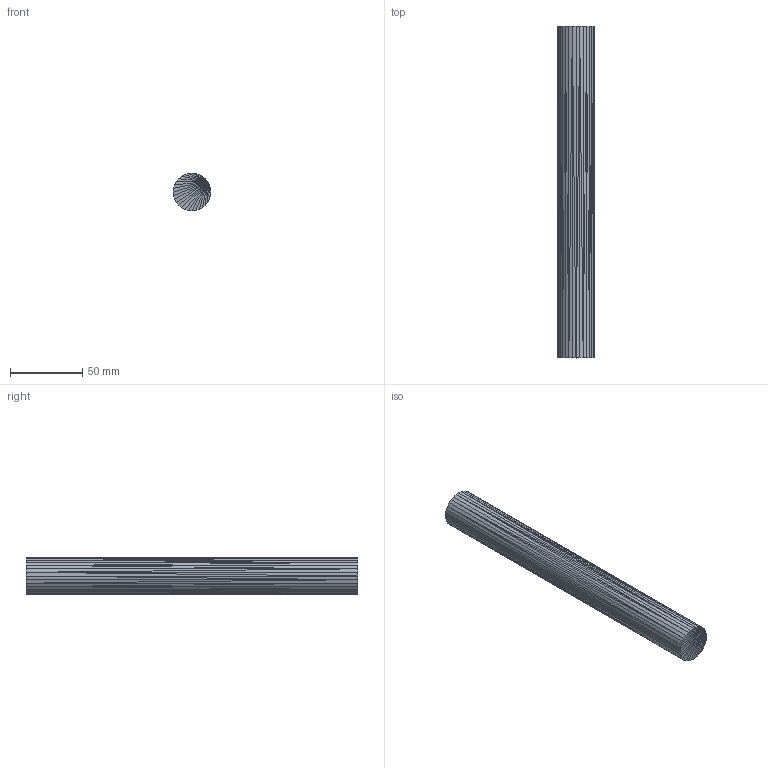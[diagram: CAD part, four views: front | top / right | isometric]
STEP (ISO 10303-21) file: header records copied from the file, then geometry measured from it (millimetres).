
FILE_DESCRIPTION(('Open CASCADE Model'),'2;1');
FILE_NAME('Open CASCADE Shape Model','2026-07-28T00:00:00+00:00',( 'Author'),('Open CASCADE'),'Open CASCADE STEP processor 7.8', 'build123d','Unknown');
FILE_SCHEMA(('AUTOMOTIVE_DESIGN { 1 0 10303 214 1 1 1 1 }'));
Length unit declared in the file: millimetre
Products named in the file (1): SOLID
Bounding box: 26 x 230 x 26 mm (x, y, z)
Volume: 121330.6 mm3; surface area: 19811.6 mm2
Topology: 1 solids, 1 shells, 124 faces, 186 edges, 64 vertices
Faces by surface type: plane 124
Entity records: 4672 total; most frequent: CARTESIAN_POINT 933, DIRECTION 622, ORIENTED_EDGE 372, LINE 372, VECTOR 372, PCURVE 372, DEFINITIONAL_REPRESENTATION 372, EDGE_CURVE 186
